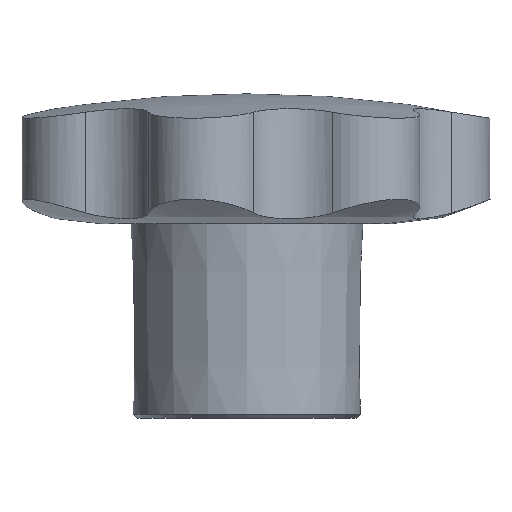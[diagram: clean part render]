
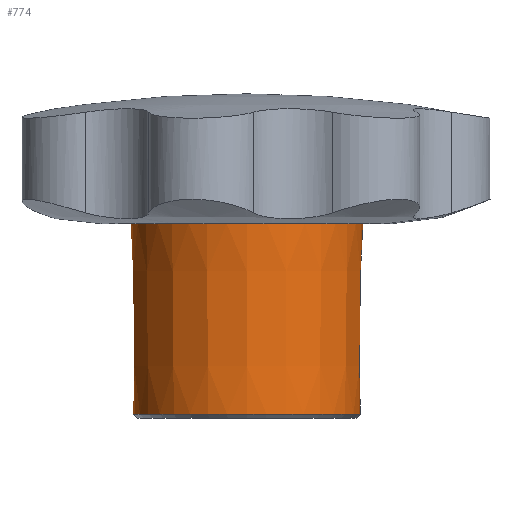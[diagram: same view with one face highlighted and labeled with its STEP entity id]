
A CAD part, left-side view. The second image highlights one B-rep face of the part: STEP entity #774.
In plain terms, the highlighted conical face has half-angle 0.75 degrees and reference radius 14.007 mm.
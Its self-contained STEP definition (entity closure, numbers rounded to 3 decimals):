
#738=CARTESIAN_POINT('',(14.314,0.,24.));
#739=VERTEX_POINT('',#738);
#740=CARTESIAN_POINT('',(0.,0.,24.));
#741=DIRECTION('',(1.,0.,0.));
#742=DIRECTION('',(0.,0.,1.));
#743=AXIS2_PLACEMENT_3D('',#740,#742,#741);
#744=CIRCLE('',#743,14.314);
#745=EDGE_CURVE('',#739,#739,#744,.T.);
#750=CARTESIAN_POINT('',(0.,0.,0.5));
#751=DIRECTION('',(1.,0.,0.));
#752=DIRECTION('',(0.,0.,1.));
#753=AXIS2_PLACEMENT_3D('',#750,#752,#751);
#754=CONICAL_SURFACE('',#753,14.007,0.013);
#755=CARTESIAN_POINT('',(14.007,0.,0.5));
#756=VERTEX_POINT('',#755);
#757=CARTESIAN_POINT('',(14.007,0.,0.5));
#758=DIRECTION('',(0.013,0.,1.));
#759=VECTOR('',#758,23.502);
#760=LINE('',#757,#759);
#761=EDGE_CURVE('',#756,#739,#760,.T.);
#762=ORIENTED_EDGE('E2',*,*,#761,.T.);
#763=ORIENTED_EDGE('E2',*,*,#745,.T.);
#764=ORIENTED_EDGE('E2',*,*,#761,.F.);
#765=CARTESIAN_POINT('',(0.,0.,0.5));
#766=DIRECTION('',(1.,0.,-0.));
#767=DIRECTION('',(0.,-0.,1.));
#768=AXIS2_PLACEMENT_3D('',#765,#767,#766);
#769=CIRCLE('',#768,14.007);
#770=EDGE_CURVE('',#756,#756,#769,.T.);
#771=ORIENTED_EDGE('E7',*,*,#770,.F.);
#772=EDGE_LOOP('',(#762,#763,#764,#771));
#773=FACE_OUTER_BOUND('',#772,.F.);
#774=ADVANCED_FACE('F3',(#773),#754,.T.);
